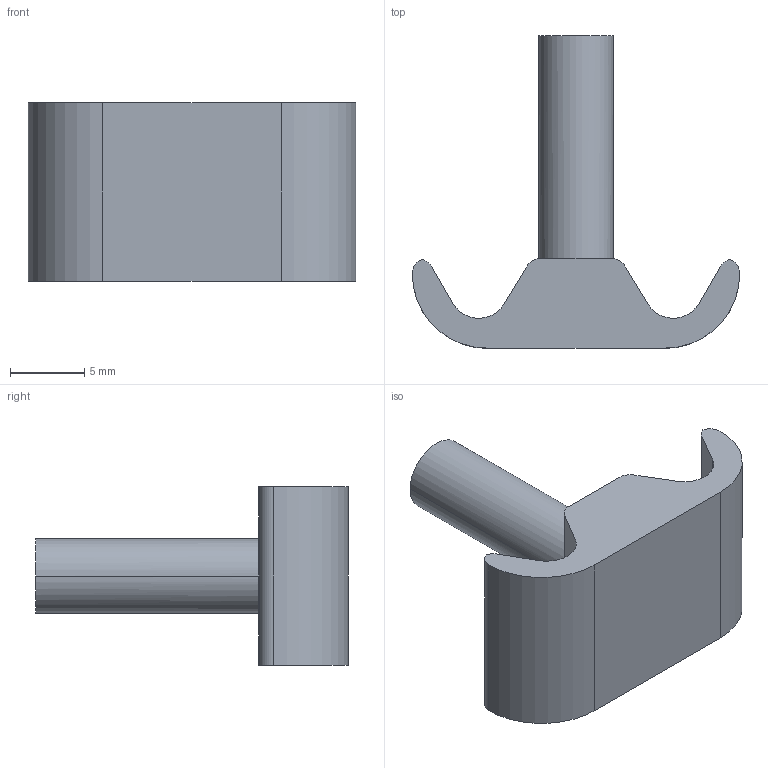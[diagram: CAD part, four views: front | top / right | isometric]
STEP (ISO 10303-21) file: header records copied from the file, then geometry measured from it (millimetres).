
FILE_DESCRIPTION (( 'STEP AP214' ), '1' );
FILE_NAME ('ECLISSE UF30.step', '2017-04-05T07:54:56', ( '' ), ( '' ), 'SwSTEP 2.0', 'SolidWorks 2015', '' );
FILE_SCHEMA (( 'AUTOMOTIVE_DESIGN' ));
Length unit declared in the file: millimetre
Products named in the file (1): ECLISSE UF30
Bounding box: 22 x 21 x 12 mm (x, y, z)
Volume: 1306.6 mm3; surface area: 1109.2 mm2
Topology: 1 solids, 1 shells, 24 faces, 62 edges, 40 vertices
Faces by surface type: cylinder 12, plane 12
Entity records: 798 total; most frequent: DIRECTION 140, CARTESIAN_POINT 127, ORIENTED_EDGE 124, EDGE_CURVE 62, AXIS2_PLACEMENT_3D 53, VERTEX_POINT 40, VECTOR 34, LINE 34
